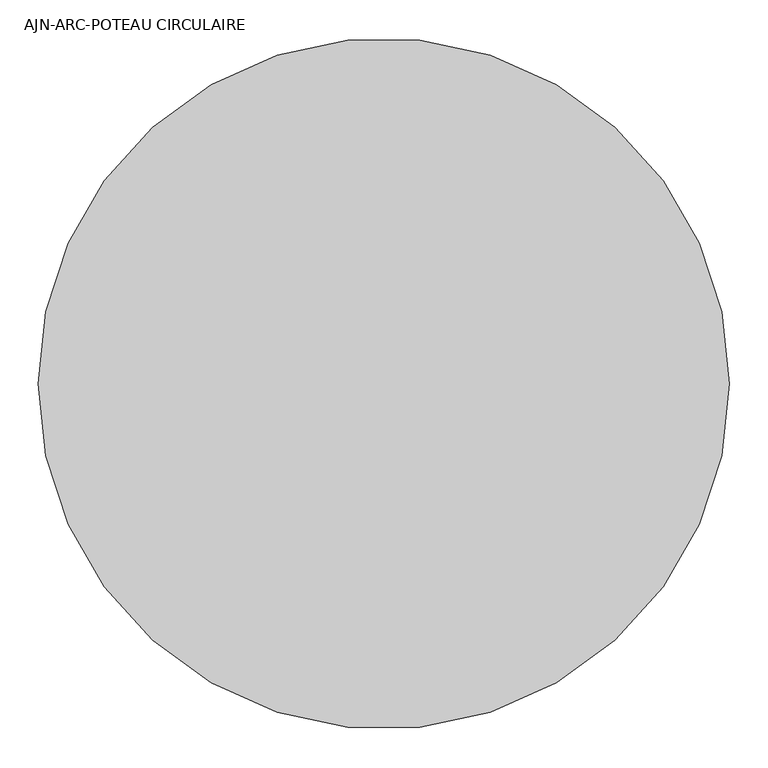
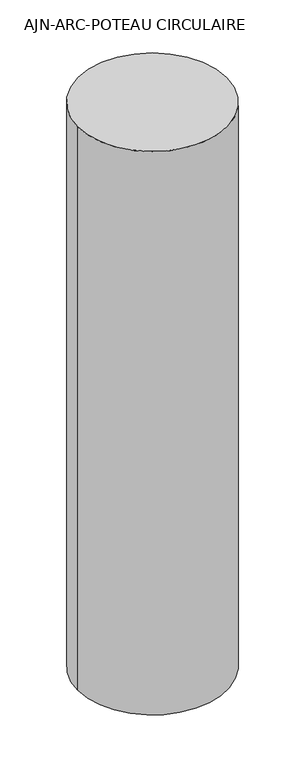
"""IFC4 building model written with IfcOpenShell, lengths in millimetres: column geometry, AJN-ARC-POTEAU CIRCULAIRE : ø90."""

import ifcopenshell
import ifcopenshell.guid

model = None  # the IFC model being written
_history = None  # IfcOwnerHistory: only IFC2X3 demands one
_inside = {}  # id of a spatial element -> (the spatial element, [elements in it])
_under = {}  # id of a project, library or spatial element -> (it, [spatial elements below it])
_declared = {}  # id of a project -> (the project, [libraries it declares])
_typed = {}  # id of a type object -> (the type object, [elements of that type])
_made_of = {}  # id of a material, layer set ... -> (it, [elements and type objects made of it])


def new_model(schema):
    """Start an empty IFC model of exactly this schema.

    Asked for "IFC4X3", IfcOpenShell would pick the latest addendum, in which some entities
    have other attributes; the version numbers below select the first issue.
    IFC2X3 requires an IfcOwnerHistory on every rooted entity: one is made here for all.
    """
    global model, _history
    if schema == "IFC4X3":
        model = ifcopenshell.file(schema_version=(4, 3, 0, 0))
    else:
        model = ifcopenshell.file(schema=schema)
    _inside.clear()
    _under.clear()
    _declared.clear()
    _typed.clear()
    _made_of.clear()
    _history = None
    if model.schema == "IFC2X3":
        org = make("IfcOrganization", Name="unknown")
        user = make(
            "IfcPersonAndOrganization",
            ThePerson=make("IfcPerson", FamilyName="unknown"),
            TheOrganization=org,
        )
        app = make(
            "IfcApplication",
            ApplicationDeveloper=org,
            Version="unknown",
            ApplicationFullName="unknown",
            ApplicationIdentifier="unknown",
        )
        _history = make(
            "IfcOwnerHistory",
            OwningUser=user,
            OwningApplication=app,
            ChangeAction="ADDED",
            CreationDate=0,
        )
    return model


def make(cls, **values):
    """One entity of the class cls with the attributes given. An attribute that is None is left unset."""
    return model.create_entity(
        cls, **{name: value for name, value in values.items() if value is not None}
    )


def rooted(cls, **values):
    """An entity with a GlobalId (a new one), such as an element, a storey or a relation."""
    return make(cls, GlobalId=ifcopenshell.guid.new(), OwnerHistory=_history, **values)


def si_unit(unit_type, name, prefix=None):
    """IfcSIUnit, for example si_unit("LENGTHUNIT", "METRE", prefix="MILLI")."""
    return make("IfcSIUnit", UnitType=unit_type, Prefix=prefix, Name=name)


def assignment(units):
    """IfcUnitAssignment: the units of a project."""
    return None if units is None else make("IfcUnitAssignment", Units=units)


def point(xyz):
    """IfcCartesianPoint."""
    return None if xyz is None else make("IfcCartesianPoint", Coordinates=xyz)


def direction(xyz):
    """IfcDirection."""
    return None if xyz is None else make("IfcDirection", DirectionRatios=xyz)


def frame(location, z_axis=None, x_axis=None):
    """IfcAxis2Placement3D, a coordinate frame: its origin and axes. An axis left out is left unset."""
    return make(
        "IfcAxis2Placement3D",
        Location=point(location),
        Axis=direction(z_axis),
        RefDirection=direction(x_axis),
    )


def frame_2d(location, x_axis=None):
    """IfcAxis2Placement2D, a coordinate frame in the plane: its origin and x axis."""
    return make(
        "IfcAxis2Placement2D", Location=point(location), RefDirection=direction(x_axis)
    )


def origin():
    """The frame at (0, 0, 0) with its axes left unset."""
    return frame((0.0, 0.0, 0.0))


def origin_2d():
    """The frame at (0, 0) in the plane with its x axis left unset."""
    return frame_2d((0.0, 0.0))


def place(relative_to, where):
    """IfcLocalPlacement: puts the frame where relative to a parent placement (None: the world)."""
    return make(
        "IfcLocalPlacement", PlacementRelTo=relative_to, RelativePlacement=where
    )


def context(
    kind, dimensions, precision=None, world=None, true_north=None, identifier=None
):
    """IfcGeometricRepresentationContext, for example the 3D "Model" context."""
    return make(
        "IfcGeometricRepresentationContext",
        ContextIdentifier=identifier,
        ContextType=kind,
        CoordinateSpaceDimension=dimensions,
        Precision=precision,
        WorldCoordinateSystem=world,
        TrueNorth=true_north,
    )


def project(units=None, contexts=None):
    """IfcProject with its units and contexts."""
    return rooted(
        "IfcProject",
        Name="project",
        RepresentationContexts=contexts,
        UnitsInContext=assignment(units),
    )


def spatial(cls, under=None, at=None, **own):
    """A site, building, storey or space (cls), placed at a placement, below another one or the project."""
    s = rooted(cls, ObjectPlacement=at, **own)
    if under is not None:
        _under.setdefault(under.id(), (under, []))[1].append(s)
    return s


def circle_curve(where, radius):
    """IfcCircle in the frame where."""
    return make("IfcCircle", Position=where, Radius=radius)


def trimmed(basis, trim1, trim2, sense, master):
    """IfcTrimmedCurve: the piece of a basis curve between two trims."""
    return make(
        "IfcTrimmedCurve",
        BasisCurve=basis,
        Trim1=trim1,
        Trim2=trim2,
        SenseAgreement=sense,
        MasterRepresentation=master,
    )


def segment(curve, same_sense, transition):
    """IfcCompositeCurveSegment."""
    return make(
        "IfcCompositeCurveSegment",
        Transition=transition,
        SameSense=same_sense,
        ParentCurve=curve,
    )


def composite_curve(segments, self_intersect=None):
    """IfcCompositeCurve: segments joined end to end."""
    return make("IfcCompositeCurve", Segments=segments, SelfIntersect=self_intersect)


def outline(outer, holes=None, kind="AREA"):
    """IfcArbitraryClosedProfileDef: a profile drawn as a closed curve; with holes, ...WithVoids."""
    if holes is None:
        return make("IfcArbitraryClosedProfileDef", ProfileType=kind, OuterCurve=outer)
    return make(
        "IfcArbitraryProfileDefWithVoids",
        ProfileType=kind,
        OuterCurve=outer,
        InnerCurves=holes,
    )


def extrude(swept, where, along, depth):
    """IfcExtrudedAreaSolid: the profile swept, set in the frame where, extruded along a direction by depth."""
    return make(
        "IfcExtrudedAreaSolid",
        SweptArea=swept,
        Position=where,
        ExtrudedDirection=direction(along),
        Depth=depth,
    )


def shape(context_of_items, identifier, shape_type, items):
    """IfcShapeRepresentation: the items that make up one representation, for example the "Body"."""
    return make(
        "IfcShapeRepresentation",
        ContextOfItems=context_of_items,
        RepresentationIdentifier=identifier,
        RepresentationType=shape_type,
        Items=items,
    )


def source(mapping_origin, context_of_items, identifier, shape_type, items):
    """IfcRepresentationMap: a shape defined once, which mapped items show again and again."""
    return make(
        "IfcRepresentationMap",
        MappingOrigin=mapping_origin,
        MappedRepresentation=shape(context_of_items, identifier, shape_type, items),
    )


def transform(
    local_origin,
    x_axis=None,
    y_axis=None,
    z_axis=None,
    scale=None,
    scale2=None,
    scale3=None,
    uniform=True,
):
    """IfcCartesianTransformationOperator3D, or its non-uniform kind. x_axis, y_axis, z_axis: its Axis1, 2, 3."""
    if uniform:
        return make(
            "IfcCartesianTransformationOperator3D",
            Axis1=direction(x_axis),
            Axis2=direction(y_axis),
            LocalOrigin=point(local_origin),
            Scale=scale,
            Axis3=direction(z_axis),
        )
    return make(
        "IfcCartesianTransformationOperator3DnonUniform",
        Axis1=direction(x_axis),
        Axis2=direction(y_axis),
        LocalOrigin=point(local_origin),
        Scale=scale,
        Axis3=direction(z_axis),
        Scale2=scale2,
        Scale3=scale3,
    )


def mapped(mapping_source, mapping_target):
    """IfcMappedItem: shows the shape of a source again, moved by a transform."""
    return make(
        "IfcMappedItem", MappingSource=mapping_source, MappingTarget=mapping_target
    )


def made_of(thing, what):
    """Note that an element or type object is made of a material, layer set ...; save() writes the relation."""
    if what is not None:
        _made_of.setdefault(what.id(), (what, []))[1].append(thing)
    return thing


def element(
    cls,
    number,
    at=None,
    inside=None,
    cuts=None,
    type_object=None,
    material=None,
    context=None,
    identifier="Body",
    shape_type=None,
    held_by="IfcProductDefinitionShape",
    body=None,
    shapes=None,
    **own,
):
    """One element of the class cls, such as IfcWall. Its Tag is "e" and its number.

    at: its placement. inside: the storey or other place that contains it. cuts: it is an
    opening in that element (IfcRelVoidsElement). A single representation is given by context,
    identifier, shape_type and body (its items); several are given by shapes. held_by: the class
    of the entity that holds the representations. save() writes the other relations.
    """
    e = rooted(cls, Tag="e%d" % number, ObjectPlacement=at, **own)
    if body is not None:
        shapes = [shape(context, identifier, shape_type, body)]
    if shapes is not None:
        e.Representation = make(held_by, Representations=shapes)
    if inside is not None:
        _inside.setdefault(inside.id(), (inside, []))[1].append(e)
    if cuts is not None:
        rooted(
            "IfcRelVoidsElement", RelatingBuildingElement=cuts, RelatedOpeningElement=e
        )
    if type_object is not None:
        _typed.setdefault(type_object.id(), (type_object, []))[1].append(e)
    return made_of(e, material)


def aggregate(whole, parts):
    """IfcRelAggregates: a whole, such as a stair, and the parts it consists of."""
    return rooted("IfcRelAggregates", RelatingObject=whole, RelatedObjects=parts)


def save(model, path):
    """Write the relations noted so far, then the file.

    IfcRelAggregates (storeys below a building ...), IfcRelContainedInSpatialStructure (elements
    in a storey), IfcRelDefinesByType, IfcRelAssociatesMaterial and IfcRelDeclares: one each for
    every whole, place, type object, material and project.
    """
    for whole, parts in _under.values():
        aggregate(whole, parts)
    for where, things in _inside.values():
        rooted(
            "IfcRelContainedInSpatialStructure",
            RelatedElements=things,
            RelatingStructure=where,
        )
    for kind, things in _typed.values():
        rooted("IfcRelDefinesByType", RelatedObjects=things, RelatingType=kind)
    for what, things in _made_of.values():
        rooted("IfcRelAssociatesMaterial", RelatedObjects=things, RelatingMaterial=what)
    for by, libraries in _declared.values():
        rooted("IfcRelDeclares", RelatingContext=by, RelatedDefinitions=libraries)
    model.write(path)


def ajn_arc_poteau_circulaire_2a1b12bc(model_context):
    return source(origin(), model_context, "Body", "SweptSolid", [
        extrude(outline(composite_curve([segment(trimmed(circle_curve(origin_2d(), 450.0), [point((-450.0, 0.0))], [point((450.0, 0.0))], False, "CARTESIAN"), True, "CONTINUOUS"), segment(trimmed(circle_curve(origin_2d(), 450.0), [point((450.0, 0.0))], [point((-450.0, 0.0))], False, "CARTESIAN"), True, "CONTINUOUS")], self_intersect=False)), frame((0.0, 0.0, 45999.9999686), z_axis=(0.0, 0.0, 1.0), x_axis=(1.0, 0.0, 0.0)), (0.0, 0.0, 1.0), 3600.0),
    ])


if __name__ == "__main__":
    model = new_model("IFC4")
    model_context = context("Model", 3, world=origin())
    ifc_project = project(units=[si_unit("LENGTHUNIT", "METRE", prefix="MILLI")], contexts=[model_context])
    site = spatial("IfcSite", under=ifc_project)
    building = spatial("IfcBuilding", under=site)
    placement = place(None, origin())
    ajn_arc_poteau_circulaire_shape = ajn_arc_poteau_circulaire_2a1b12bc(model_context)
    element("IfcColumn", 1, ObjectType="AJN-ARC-POTEAU CIRCULAIRE : ø90", at=placement, inside=building, context=model_context, shape_type="MappedRepresentation", body=[
        mapped(ajn_arc_poteau_circulaire_shape, transform((0.0, 0.0, 0.0), x_axis=(1.0, 0.0, 0.0), y_axis=(0.0, 1.0, 0.0), z_axis=(0.0, 0.0, 1.0))),
    ])
    save(model, "model.ifc")
